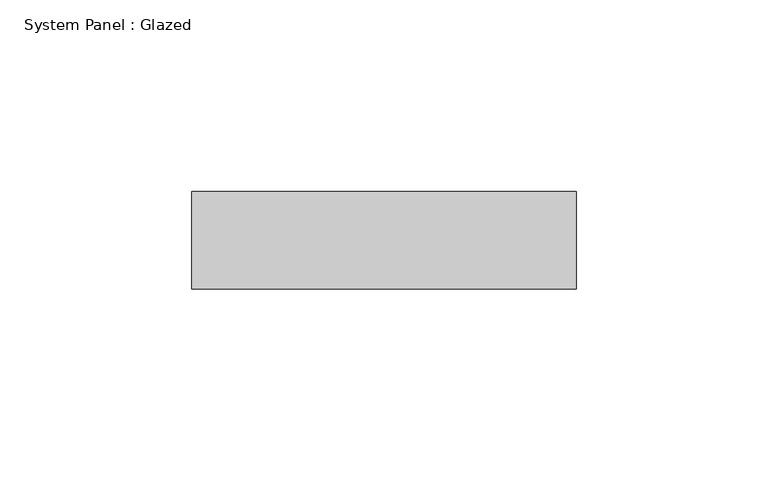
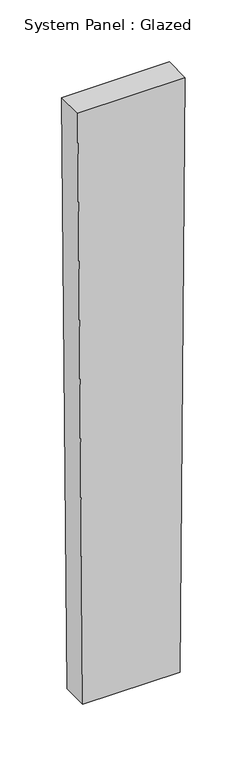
"""IFC4 building model written with IfcOpenShell, lengths in millimetres: plate geometry, System Panel : Glazed."""

from ifc_helpers import new_model, si_unit, frame, origin, place, context, project, spatial, polyline, outline, extrude, source, transform, mapped, element, save


def system_panel_glazed_fa29fb8c(model_context):
    return source(origin(), model_context, "Body", "SweptSolid", [
        extrude(outline(polyline([(0.0, -45.3410344), (0.0, 45.3410344), (584.1795815, 50.1225046), (584.1795815, -50.1225046), (0.0, -45.3410344)])), frame((0.0, 19.05, 0.0), z_axis=(0.0, 1.0, 0.0), x_axis=(0.0, 0.0, 1.0)), (0.0, 0.0, 1.0), 25.4),
    ])


if __name__ == "__main__":
    model = new_model("IFC4")
    model_context = context("Model", 3, world=origin())
    ifc_project = project(units=[si_unit("LENGTHUNIT", "METRE", prefix="MILLI")], contexts=[model_context])
    site = spatial("IfcSite", under=ifc_project)
    building = spatial("IfcBuilding", under=site)
    placement = place(None, origin())
    system_panel_glazed_shape = system_panel_glazed_fa29fb8c(model_context)
    element("IfcPlate", 1, ObjectType="System Panel : Glazed", at=placement, inside=building, context=model_context, shape_type="MappedRepresentation", body=[
        mapped(system_panel_glazed_shape, transform((0.0, 0.0, 0.0), x_axis=(1.0, 0.0, 0.0), y_axis=(0.0, 1.0, 0.0), z_axis=(0.0, 0.0, 1.0))),
    ])
    save(model, "model.ifc")
